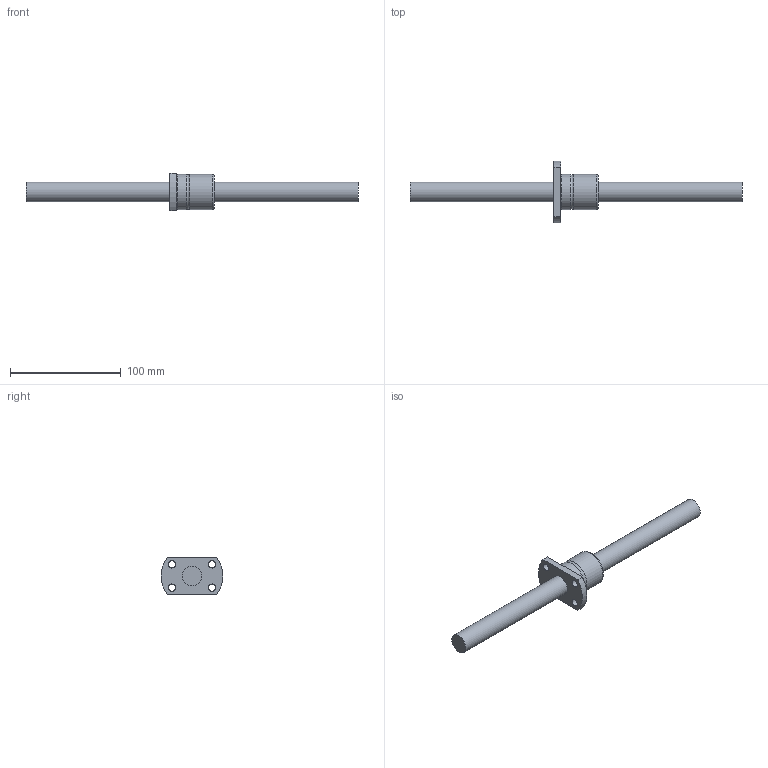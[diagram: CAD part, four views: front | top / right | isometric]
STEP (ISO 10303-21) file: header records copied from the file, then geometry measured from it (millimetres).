
FILE_DESCRIPTION((''),'2;1');
FILE_NAME('D:\製品 (図面)\カタログ用3D\ネジ関連\STEP形式\TMK-OH\TMK18-OH.stp','2010-06-02T15:28:02',('Tsuchiya'),(''),'Autodesk Inventor 10','Autodesk Inventor 10','');
FILE_SCHEMA(('AUTOMOTIVE_DESIGN { 1 0 10303 214 1 1 1 1 }'));
Length unit declared in the file: millimetre
Products named in the file (3): TMK18-OH; TMK18-OH1; TMK18-OH2
Assembly tree (2 placements, depth 2):
  TMK18-OH
    TMK18-OH1
    TMK18-OH2
Bounding box: 300 x 56 x 34 mm (x, y, z)
Volume: 103197.7 mm3; surface area: 27362.9 mm2
Topology: 2 solids, 2 shells, 21 faces, 49 edges, 33 vertices
Faces by surface type: cylinder 7, plane 7, bspline 6, torus 1
Full cylindrical faces by diameter (mm): 2 x1, 18 x2, 32 x2
Entity records: 869 total; most frequent: CARTESIAN_POINT 375, DIRECTION 92, ORIENTED_EDGE 64, EDGE_LOOP 46, AXIS2_PLACEMENT_3D 42, EDGE_CURVE 32, VERTEX_POINT 28, FACE_BOUND 25
